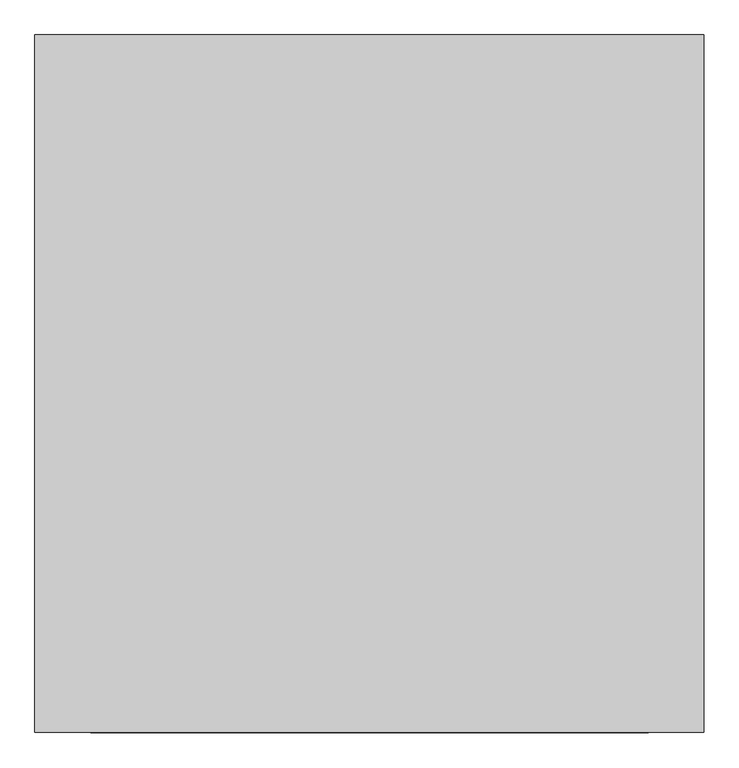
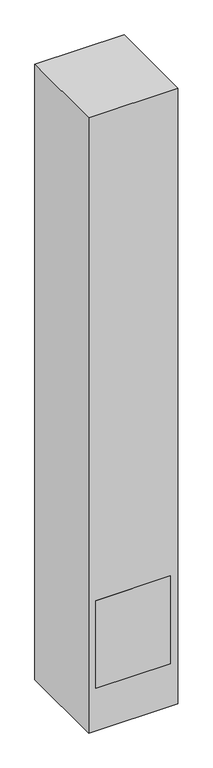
"""IFC4 building model written with IfcOpenShell, lengths in millimetres: proxy geometry, 営_EV 3D 簡易 : 営_EV 3D 簡易."""

from ifc_helpers import new_model, si_unit, frame, origin, origin_with_axes, place, context, project, spatial, polyline, outline, extrude, source, transform, mapped, element, save


def mechanical_equipment_42b1760c(model_context):
    return source(origin(), model_context, "Body", "SweptSolid", [
        extrude(outline(polyline([(1000.0, 2150.0), (1000.0, 150.0), (-1000.0, 150.0), (-1000.0, 2150.0), (1000.0, 2150.0)])), origin_with_axes(), (0.0, 0.0, 1.0), 2500.0),
        extrude(outline(polyline([(1200.0, 150.0), (-1200.0, 150.0), (-1200.0, 2650.0), (1200.0, 2650.0), (1200.0, 150.0)])), frame((0.0, 0.0, -1200.0), z_axis=(0.0, 0.0, 1.0), x_axis=(1.0, 0.0, 0.0)), (0.0, 0.0, 1.0), 17500.0),
    ])


if __name__ == "__main__":
    model = new_model("IFC4")
    model_context = context("Model", 3, world=origin())
    ifc_project = project(units=[si_unit("LENGTHUNIT", "METRE", prefix="MILLI")], contexts=[model_context])
    site = spatial("IfcSite", under=ifc_project)
    building = spatial("IfcBuilding", under=site)
    placement = place(None, origin())
    mechanical_equipment_shape = mechanical_equipment_42b1760c(model_context)
    element("IfcBuildingElementProxy", 1, Name="営_EV 3D 簡易 : 営_EV 3D 簡易", ObjectType="営_EV 3D 簡易 : 営_EV 3D 簡易", at=placement, inside=building, context=model_context, shape_type="MappedRepresentation", body=[
        mapped(mechanical_equipment_shape, transform((0.0, 0.0, 0.0), x_axis=(1.0, 0.0, 0.0), y_axis=(0.0, 1.0, 0.0), z_axis=(0.0, 0.0, 1.0))),
    ])
    save(model, "model.ifc")
